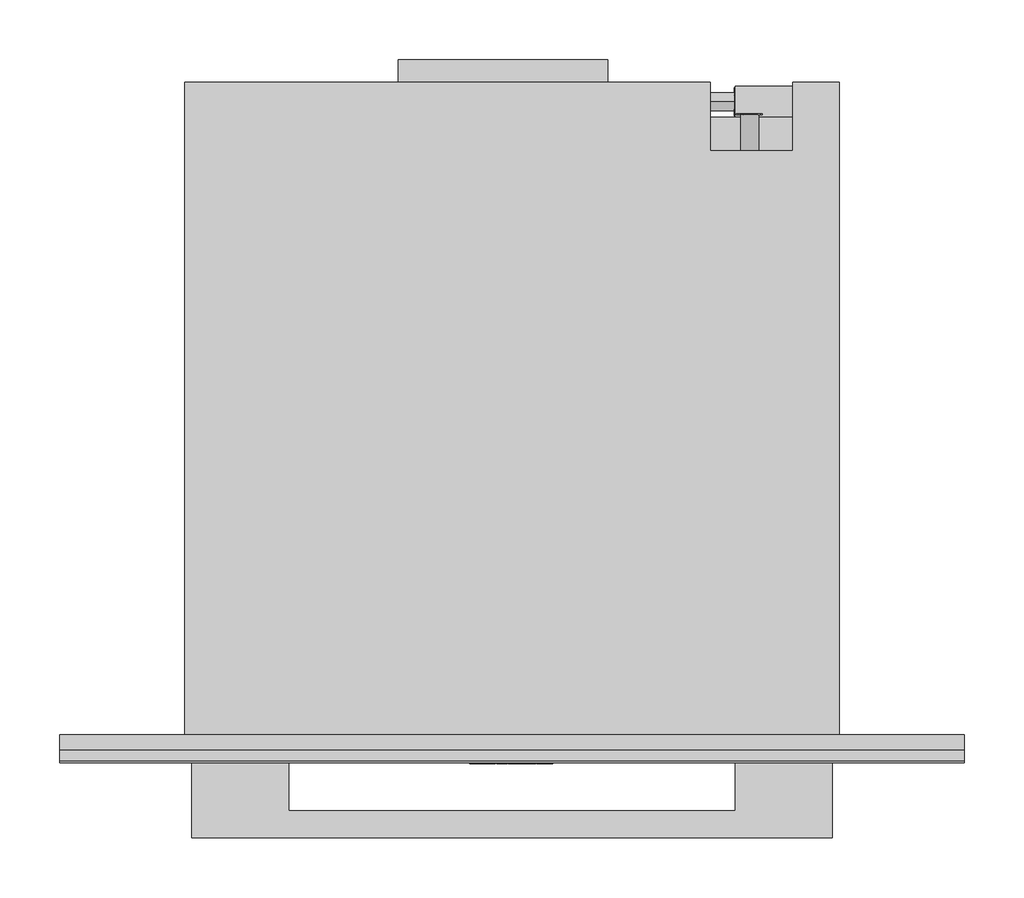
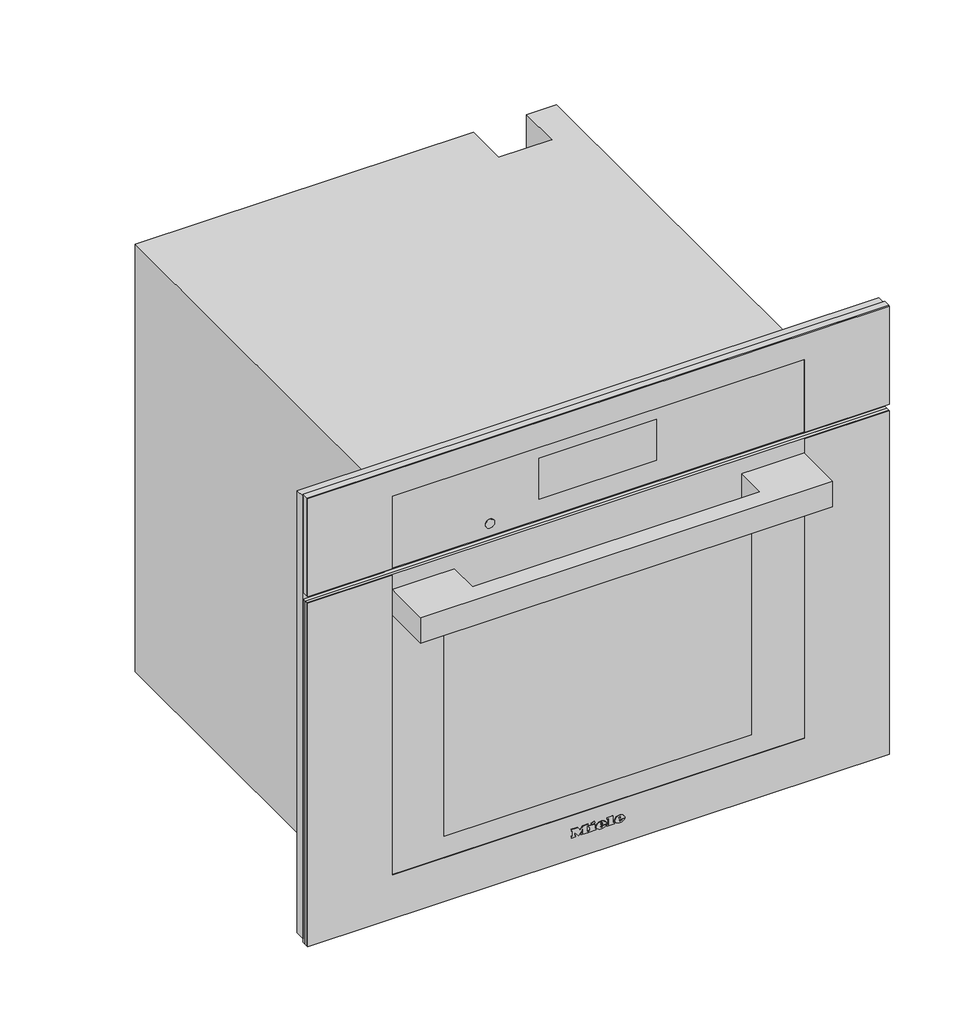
# Not in any storey: 1 proxy.
"""IFC4 building model written with IfcOpenShell, lengths in millimetres."""

from ifc_helpers import new_model, si_unit, origin, place, context, project, spatial, transform, mapped, element, save
from components import specialty_equipment_a7eebdfc

model = new_model("IFC4")

# Units and contexts
model_context = context("Model", 3, world=origin())
ifc_project = project(units=[si_unit("LENGTHUNIT", "METRE", prefix="MILLI")], contexts=[model_context])

# Site, building
site = spatial("IfcSite", under=ifc_project)
building = spatial("IfcBuilding", under=site)

# Proxy
placement = place(None, origin())
specialty_equipment_shape = specialty_equipment_a7eebdfc(model_context)
element("IfcBuildingElementProxy", 1, Name="11875810_USA_DGC7785_EDST-CLST : 23778543_USA_11875810_DGC7785_EDST-CLST", ObjectType="11875810_USA_DGC7785_EDST-CLST : 23778543_USA_11875810_DGC7785_EDST-CLST", at=placement, inside=building, context=model_context, shape_type="MappedRepresentation", body=[
    mapped(specialty_equipment_shape, transform((0.0, 0.0, 0.0), x_axis=(1.0, 0.0, 0.0), y_axis=(0.0, 1.0, 0.0), z_axis=(0.0, 0.0, 1.0))),
])

save(model, "model.ifc")
